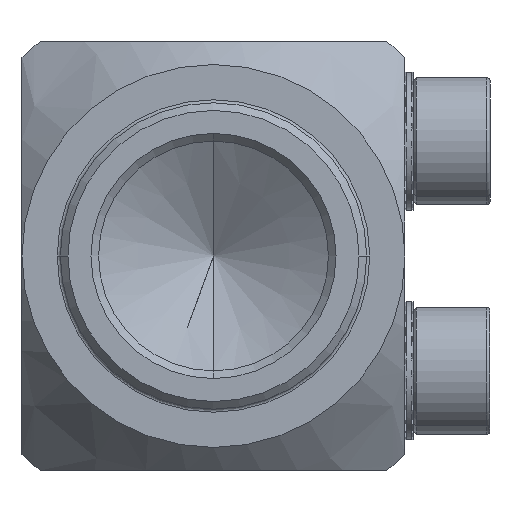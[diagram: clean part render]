
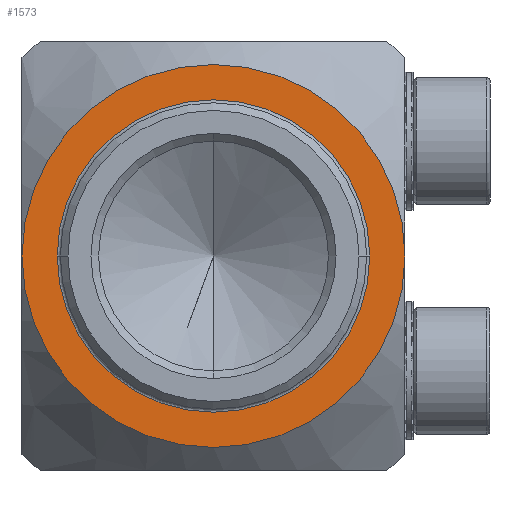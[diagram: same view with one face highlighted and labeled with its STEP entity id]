
A CAD part, front view. The second image highlights one B-rep face of the part: STEP entity #1573.
In plain terms, the highlighted planar face has unit normal (0, -1, 0).
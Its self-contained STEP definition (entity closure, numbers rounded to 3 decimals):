
#163 = DIRECTION ( 'NONE',  ( -1., 0., 0. ) ) ;
#459 = VERTEX_POINT ( 'NONE', #2515 ) ;
#1573 = ADVANCED_FACE ( 'NONE', ( #8989, #5130 ), #2645, .F. ) ;
#1581 = CARTESIAN_POINT ( 'NONE',  ( 0., 150., 0. ) ) ;
#1872 = VERTEX_POINT ( 'NONE', #6687 ) ;
#2077 = EDGE_CURVE ( 'NONE', #459, #2419, #3540, .T. ) ;
#2137 = DIRECTION ( 'NONE',  ( 0., 1., 0. ) ) ;
#2297 = DIRECTION ( 'NONE',  ( -1., 0., 0. ) ) ;
#2419 = VERTEX_POINT ( 'NONE', #4267 ) ;
#2515 = CARTESIAN_POINT ( 'NONE',  ( -12.5, 150., 0. ) ) ;
#2581 = EDGE_CURVE ( 'NONE', #8656, #1872, #6450, .T. ) ;
#2645 = PLANE ( 'NONE',  #4129 ) ;
#2741 = ORIENTED_EDGE ( 'NONE', *, *, #8053, .T. ) ;
#2752 = CARTESIAN_POINT ( 'NONE',  ( 10., 150., 0. ) ) ;
#3427 = ORIENTED_EDGE ( 'NONE', *, *, #2077, .T. ) ;
#3492 = DIRECTION ( 'NONE',  ( 0., 1., 0. ) ) ;
#3540 = CIRCLE ( 'NONE', #6177, 12.5 ) ;
#4111 = DIRECTION ( 'NONE',  ( 0., -1., 0. ) ) ;
#4129 = AXIS2_PLACEMENT_3D ( 'NONE', #2752, #3492, #8528 ) ;
#4267 = CARTESIAN_POINT ( 'NONE',  ( 12.5, 150., 0. ) ) ;
#4475 = DIRECTION ( 'NONE',  ( 0., 1., 0. ) ) ;
#4533 = CIRCLE ( 'NONE', #9016, 10.2 ) ;
#4865 = CIRCLE ( 'NONE', #9087, 12.5 ) ;
#4898 = EDGE_LOOP ( 'NONE', ( #6255, #8310 ) ) ;
#5130 = FACE_OUTER_BOUND ( 'NONE', #8607, .T. ) ;
#5195 = CARTESIAN_POINT ( 'NONE',  ( -10.2, 150., 0. ) ) ;
#5809 = AXIS2_PLACEMENT_3D ( 'NONE', #8805, #4475, #163 ) ;
#6177 = AXIS2_PLACEMENT_3D ( 'NONE', #8421, #4111, #9165 ) ;
#6255 = ORIENTED_EDGE ( 'NONE', *, *, #2581, .T. ) ;
#6450 = CIRCLE ( 'NONE', #5809, 10.2 ) ;
#6460 = CARTESIAN_POINT ( 'NONE',  ( 0., 150., 0. ) ) ;
#6627 = DIRECTION ( 'NONE',  ( 0., -1., 0. ) ) ;
#6687 = CARTESIAN_POINT ( 'NONE',  ( 10.2, 150., 0. ) ) ;
#7016 = EDGE_CURVE ( 'NONE', #1872, #8656, #4533, .T. ) ;
#7202 = DIRECTION ( 'NONE',  ( -1., 0., 0. ) ) ;
#8053 = EDGE_CURVE ( 'NONE', #2419, #459, #4865, .T. ) ;
#8310 = ORIENTED_EDGE ( 'NONE', *, *, #7016, .T. ) ;
#8421 = CARTESIAN_POINT ( 'NONE',  ( 0., 150., 0. ) ) ;
#8528 = DIRECTION ( 'NONE',  ( -1., 0., 0. ) ) ;
#8607 = EDGE_LOOP ( 'NONE', ( #3427, #2741 ) ) ;
#8656 = VERTEX_POINT ( 'NONE', #5195 ) ;
#8805 = CARTESIAN_POINT ( 'NONE',  ( 0., 150., 0. ) ) ;
#8989 = FACE_BOUND ( 'NONE', #4898, .T. ) ;
#9016 = AXIS2_PLACEMENT_3D ( 'NONE', #6460, #2137, #7202 ) ;
#9087 = AXIS2_PLACEMENT_3D ( 'NONE', #1581, #6627, #2297 ) ;
#9165 = DIRECTION ( 'NONE',  ( -1., 0., 0. ) ) ;
